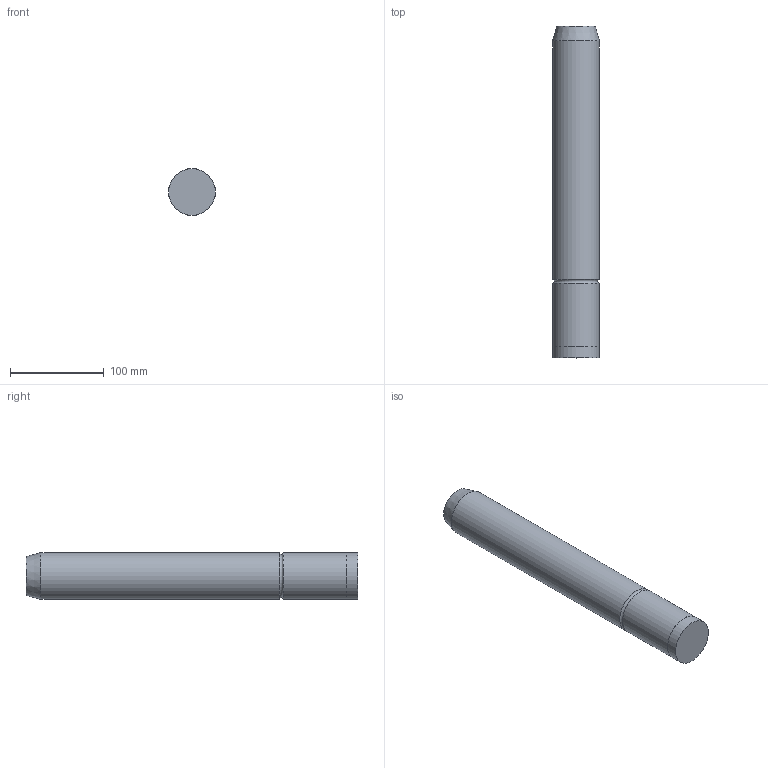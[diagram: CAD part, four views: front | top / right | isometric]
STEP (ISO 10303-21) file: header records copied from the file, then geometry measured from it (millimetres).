
FILE_DESCRIPTION( ( 'STEP AP203' ), '1' );
FILE_NAME( 'D:/Cuma/25 06 2009/D12/D12_50355.step', '2003-02-03T12:22:12', ( ' ' ), ( ' ' ), 'XStep 1.0', ' ', ' ' );
FILE_SCHEMA( ( 'CONFIG_CONTROL_DESIGN' ) );
Length unit declared in the file: metre
Products named in the file (1): 1
Bounding box: 50 x 355 x 50 mm (x, y, z)
Volume: 690723.9 mm3; surface area: 59253.7 mm2
Topology: 1 solids, 1 shells, 8 faces, 12 edges, 7 vertices
Faces by surface type: plane 3, cylinder 3, cone 1, torus 1
Full cylindrical faces by diameter (mm): 49.8 x1, 50 x2
Entity records: 199 total; most frequent: DIRECTION 32, CARTESIAN_POINT 23, AXIS2_PLACEMENT_3D 16, EDGE_LOOP 14, ORIENTED_EDGE 14, FACE_OUTER_BOUND 12, ADVANCED_FACE 8, EDGE_CURVE 7
